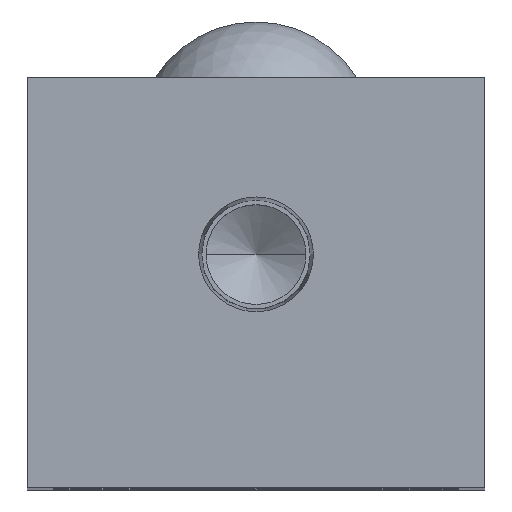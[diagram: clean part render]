
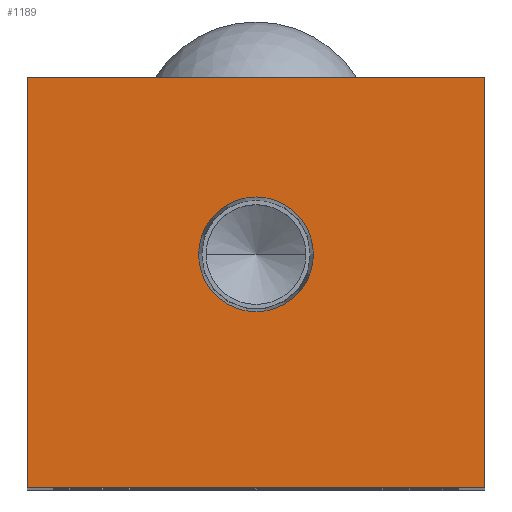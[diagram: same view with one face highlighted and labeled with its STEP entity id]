
A CAD part, top view. The second image highlights one B-rep face of the part: STEP entity #1189.
In plain terms, the highlighted planar face has unit normal (0, 0, 1).
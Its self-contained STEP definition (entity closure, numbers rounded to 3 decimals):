
#29 = CARTESIAN_POINT ( 'NONE',  ( -6.154, 25., 0. ) ) ;
#68 = EDGE_CURVE ( 'NONE', #2782, #2811, #334, .T. ) ;
#91 = DIRECTION ( 'NONE',  ( 0., -1., 0. ) ) ;
#154 = DIRECTION ( 'NONE',  ( 1., 0., 0. ) ) ;
#334 = LINE ( 'NONE', #461, #1169 ) ;
#449 = VECTOR ( 'NONE', #1632, 1000. ) ;
#461 = CARTESIAN_POINT ( 'NONE',  ( -24.5, 44., 0. ) ) ;
#562 = CARTESIAN_POINT ( 'NONE',  ( 0., 25., 0. ) ) ;
#563 = DIRECTION ( 'NONE',  ( 0., 0., 1. ) ) ;
#585 = EDGE_LOOP ( 'NONE', ( #770, #3267 ) ) ;
#587 = LINE ( 'NONE', #2853, #2149 ) ;
#631 = ORIENTED_EDGE ( 'NONE', *, *, #68, .T. ) ;
#657 = AXIS2_PLACEMENT_3D ( 'NONE', #2422, #563, #2731 ) ;
#706 = CARTESIAN_POINT ( 'NONE',  ( -24.5, 44., 0. ) ) ;
#770 = ORIENTED_EDGE ( 'NONE', *, *, #2534, .F. ) ;
#834 = ORIENTED_EDGE ( 'NONE', *, *, #3997, .T. ) ;
#875 = DIRECTION ( 'NONE',  ( 1., 0., 0. ) ) ;
#891 = VERTEX_POINT ( 'NONE', #29 ) ;
#1169 = VECTOR ( 'NONE', #2610, 1000. ) ;
#1172 = VERTEX_POINT ( 'NONE', #1491 ) ;
#1189 = ADVANCED_FACE ( 'NONE', ( #3042, #3874 ), #1506, .F. ) ;
#1190 = LINE ( 'NONE', #2016, #2639 ) ;
#1278 = LINE ( 'NONE', #3206, #449 ) ;
#1324 = ORIENTED_EDGE ( 'NONE', *, *, #2987, .T. ) ;
#1441 = CARTESIAN_POINT ( 'NONE',  ( 24.5, 0., 0. ) ) ;
#1491 = CARTESIAN_POINT ( 'NONE',  ( 6.154, 25., 0. ) ) ;
#1506 = PLANE ( 'NONE',  #1729 ) ;
#1632 = DIRECTION ( 'NONE',  ( 0., 1., 0. ) ) ;
#1729 = AXIS2_PLACEMENT_3D ( 'NONE', #3362, #3671, #1820 ) ;
#1820 = DIRECTION ( 'NONE',  ( -1., 0., 0. ) ) ;
#2016 = CARTESIAN_POINT ( 'NONE',  ( 24.5, 0., 0. ) ) ;
#2063 = EDGE_CURVE ( 'NONE', #3880, #3137, #1190, .T. ) ;
#2149 = VECTOR ( 'NONE', #91, 1000. ) ;
#2174 = CIRCLE ( 'NONE', #657, 6.154 ) ;
#2202 = EDGE_LOOP ( 'NONE', ( #834, #3167, #1324, #631 ) ) ;
#2422 = CARTESIAN_POINT ( 'NONE',  ( 0., 25., 0. ) ) ;
#2534 = EDGE_CURVE ( 'NONE', #1172, #891, #2174, .T. ) ;
#2610 = DIRECTION ( 'NONE',  ( -1., 0., 0. ) ) ;
#2639 = VECTOR ( 'NONE', #154, 1000. ) ;
#2730 = DIRECTION ( 'NONE',  ( 0., 0., 1. ) ) ;
#2731 = DIRECTION ( 'NONE',  ( 1., 0., 0. ) ) ;
#2782 = VERTEX_POINT ( 'NONE', #3468 ) ;
#2811 = VERTEX_POINT ( 'NONE', #706 ) ;
#2853 = CARTESIAN_POINT ( 'NONE',  ( -24.5, 0., 0. ) ) ;
#2904 = CIRCLE ( 'NONE', #2979, 6.154 ) ;
#2979 = AXIS2_PLACEMENT_3D ( 'NONE', #562, #2730, #875 ) ;
#2987 = EDGE_CURVE ( 'NONE', #3137, #2782, #1278, .T. ) ;
#3042 = FACE_BOUND ( 'NONE', #585, .T. ) ;
#3137 = VERTEX_POINT ( 'NONE', #1441 ) ;
#3167 = ORIENTED_EDGE ( 'NONE', *, *, #2063, .T. ) ;
#3206 = CARTESIAN_POINT ( 'NONE',  ( 24.5, 44., 0. ) ) ;
#3267 = ORIENTED_EDGE ( 'NONE', *, *, #3422, .F. ) ;
#3362 = CARTESIAN_POINT ( 'NONE',  ( 0., 0., 0. ) ) ;
#3422 = EDGE_CURVE ( 'NONE', #891, #1172, #2904, .T. ) ;
#3468 = CARTESIAN_POINT ( 'NONE',  ( 24.5, 44., 0. ) ) ;
#3671 = DIRECTION ( 'NONE',  ( 0., 0., -1. ) ) ;
#3718 = CARTESIAN_POINT ( 'NONE',  ( -24.5, 0., 0. ) ) ;
#3874 = FACE_OUTER_BOUND ( 'NONE', #2202, .T. ) ;
#3880 = VERTEX_POINT ( 'NONE', #3718 ) ;
#3997 = EDGE_CURVE ( 'NONE', #2811, #3880, #587, .T. ) ;
